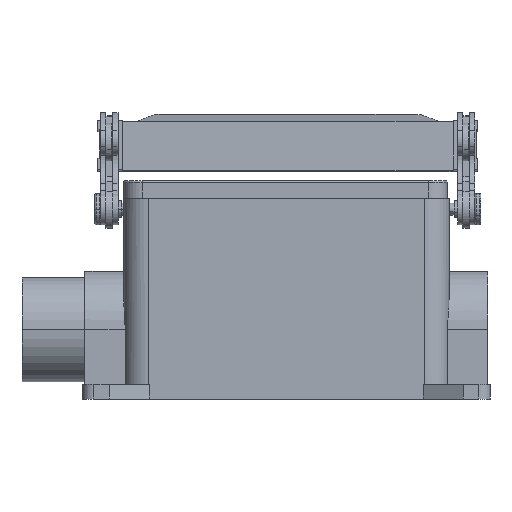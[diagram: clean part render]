
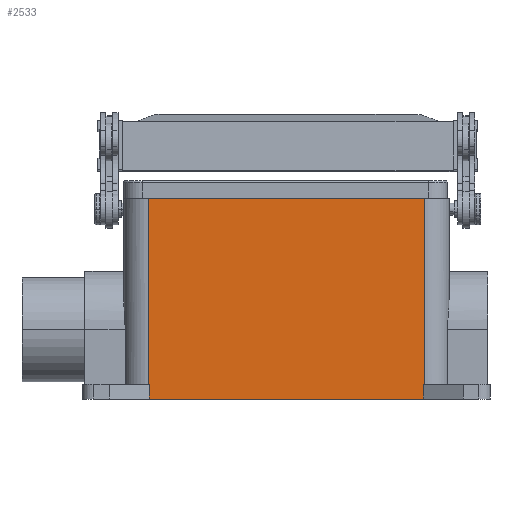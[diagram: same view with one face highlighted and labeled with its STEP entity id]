
A CAD part, top view. The second image highlights one B-rep face of the part: STEP entity #2533.
In plain terms, the highlighted planar face has unit normal (0, 0, 1).
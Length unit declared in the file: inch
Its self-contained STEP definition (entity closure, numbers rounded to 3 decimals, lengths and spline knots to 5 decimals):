
#148 = VERTEX_POINT ( 'NONE', #5877 ) ;
#184 = VERTEX_POINT ( 'NONE', #5966 ) ;
#190 = EDGE_CURVE ( 'NONE', #193, #148, #6048, .T. ) ;
#193 = VERTEX_POINT ( 'NONE', #6044 ) ;
#239 = EDGE_CURVE ( 'NONE', #193, #184, #6160, .T. ) ;
#2234 = VERTEX_POINT ( 'NONE', #25277 ) ;
#2236 = EDGE_CURVE ( 'NONE', #2237, #2234, #25276, .T. ) ;
#2237 = VERTEX_POINT ( 'NONE', #25272 ) ;
#2360 = VERTEX_POINT ( 'NONE', #25640 ) ;
#2381 = EDGE_CURVE ( 'NONE', #2237, #2360, #25678, .T. ) ;
#2396 = EDGE_CURVE ( 'NONE', #2397, #148, #25697, .T. ) ;
#2397 = VERTEX_POINT ( 'NONE', #25693 ) ;
#2398 = EDGE_CURVE ( 'NONE', #2360, #184, #25738, .T. ) ;
#2533 = ADVANCED_FACE ( 'NONE', ( #8204 ), #8248, .F. ) ;
#2534 = EDGE_LOOP ( 'NONE', ( #2535, #2536, #2537, #2538, #2539, #2540, #2541, #2565 ) ) ;
#2535 = ORIENTED_EDGE ( 'NONE', *, *, #2396, .T. ) ;
#2536 = ORIENTED_EDGE ( 'NONE', *, *, #190, .F. ) ;
#2537 = ORIENTED_EDGE ( 'NONE', *, *, #239, .T. ) ;
#2538 = ORIENTED_EDGE ( 'NONE', *, *, #2398, .F. ) ;
#2539 = ORIENTED_EDGE ( 'NONE', *, *, #2381, .F. ) ;
#2540 = ORIENTED_EDGE ( 'NONE', *, *, #2236, .T. ) ;
#2541 = ORIENTED_EDGE ( 'NONE', *, *, #2564, .T. ) ;
#2542 = VERTEX_POINT ( 'NONE', #8243 ) ;
#2564 = EDGE_CURVE ( 'NONE', #2234, #2542, #8275, .T. ) ;
#2565 = ORIENTED_EDGE ( 'NONE', *, *, #2566, .T. ) ;
#2566 = EDGE_CURVE ( 'NONE', #2542, #2397, #8271, .T. ) ;
#5877 = CARTESIAN_POINT ( 'NONE',  ( -1.55825, 2.27, 0.8455 ) ) ;
#5966 = CARTESIAN_POINT ( 'NONE',  ( -1.55, 0.165, 0.8455 ) ) ;
#6044 = CARTESIAN_POINT ( 'NONE',  ( -1.55825, 0.165, 0.8455 ) ) ;
#6045 = DIRECTION ( 'NONE',  ( 0., 1., 0. ) ) ;
#6046 = VECTOR ( 'NONE', #6045, 39.37008 ) ;
#6047 = CARTESIAN_POINT ( 'NONE',  ( -1.55825, -2.36711, 0.8455 ) ) ;
#6048 = LINE ( 'NONE', #6047, #6046 ) ;
#6157 = DIRECTION ( 'NONE',  ( 1., 0., 0. ) ) ;
#6158 = VECTOR ( 'NONE', #6157, 39.37008 ) ;
#6159 = CARTESIAN_POINT ( 'NONE',  ( -1.55, 0.165, 0.8455 ) ) ;
#6160 = LINE ( 'NONE', #6159, #6158 ) ;
#8204 = FACE_OUTER_BOUND ( 'NONE', #2534, .T. ) ;
#8243 = CARTESIAN_POINT ( 'NONE',  ( 1.55825, 0.165, 0.8455 ) ) ;
#8244 = DIRECTION ( 'NONE',  ( -1., 0., 0. ) ) ;
#8245 = DIRECTION ( 'NONE',  ( 0., 0., -1. ) ) ;
#8246 = CARTESIAN_POINT ( 'NONE',  ( -1.55, 0., 0.8455 ) ) ;
#8247 = AXIS2_PLACEMENT_3D ( 'NONE', #8246, #8245, #8244 ) ;
#8248 = PLANE ( 'NONE',  #8247 ) ;
#8267 = DIRECTION ( 'NONE',  ( 0., 1., 0. ) ) ;
#8268 = VECTOR ( 'NONE', #8267, 39.37008 ) ;
#8269 = CARTESIAN_POINT ( 'NONE',  ( 1.55825, -2.36711, 0.8455 ) ) ;
#8271 = LINE ( 'NONE', #8269, #8268 ) ;
#8272 = DIRECTION ( 'NONE',  ( 1., 0., 0. ) ) ;
#8273 = VECTOR ( 'NONE', #8272, 39.37008 ) ;
#8274 = CARTESIAN_POINT ( 'NONE',  ( 1.55, 0.165, 0.8455 ) ) ;
#8275 = LINE ( 'NONE', #8274, #8273 ) ;
#25272 = CARTESIAN_POINT ( 'NONE',  ( 1.55, 0., 0.8455 ) ) ;
#25273 = DIRECTION ( 'NONE',  ( 0., 1., 0. ) ) ;
#25274 = VECTOR ( 'NONE', #25273, 39.37008 ) ;
#25275 = CARTESIAN_POINT ( 'NONE',  ( 1.55, 0., 0.8455 ) ) ;
#25276 = LINE ( 'NONE', #25275, #25274 ) ;
#25277 = CARTESIAN_POINT ( 'NONE',  ( 1.55, 0.165, 0.8455 ) ) ;
#25640 = CARTESIAN_POINT ( 'NONE',  ( -1.55, 0., 0.8455 ) ) ;
#25675 = DIRECTION ( 'NONE',  ( -1., 0., 0. ) ) ;
#25676 = VECTOR ( 'NONE', #25675, 39.37008 ) ;
#25677 = CARTESIAN_POINT ( 'NONE',  ( -1.55, 0., 0.8455 ) ) ;
#25678 = LINE ( 'NONE', #25677, #25676 ) ;
#25693 = CARTESIAN_POINT ( 'NONE',  ( 1.55825, 2.27, 0.8455 ) ) ;
#25694 = DIRECTION ( 'NONE',  ( -1., 0., 0. ) ) ;
#25695 = VECTOR ( 'NONE', #25694, 39.37008 ) ;
#25696 = CARTESIAN_POINT ( 'NONE',  ( -1.55, 2.27, 0.8455 ) ) ;
#25697 = LINE ( 'NONE', #25696, #25695 ) ;
#25735 = DIRECTION ( 'NONE',  ( 0., 1., 0. ) ) ;
#25736 = VECTOR ( 'NONE', #25735, 39.37008 ) ;
#25737 = CARTESIAN_POINT ( 'NONE',  ( -1.55, 0., 0.8455 ) ) ;
#25738 = LINE ( 'NONE', #25737, #25736 ) ;
